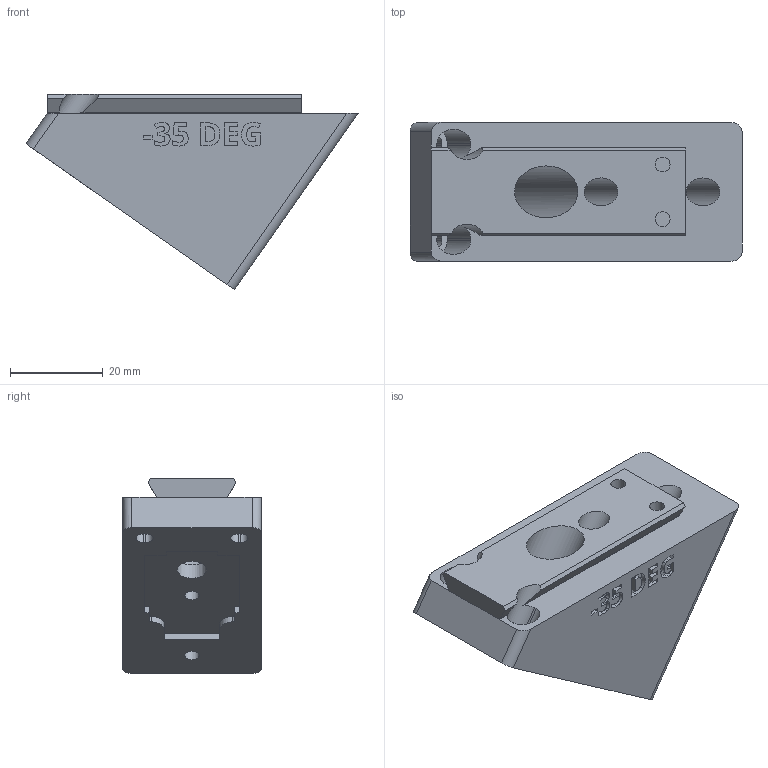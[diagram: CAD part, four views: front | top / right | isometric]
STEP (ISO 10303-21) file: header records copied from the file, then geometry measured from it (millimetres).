
FILE_DESCRIPTION(/* description */ ('STEP AP242 Edition 2','CAx-IF Rec.Pracs.---Representation and Presentation of Product Manufacturing Information (PMI)---4.0---2014-10-13','CAx-IF Rec.Pracs.---3D Tessellated Geometry---0.4---2014-09-14','2;1','CAx-IF Rec.Pracs.---User Defined Attributes---1.5---2016-08-15'),/* implementation_level */ '2;1');
FILE_NAME(/* name */ 'Camera Wedges - CAMERA MOUNTING WEDGE, NEG, -35 DEG',/* time_stamp */ '2026-08-11T00:08:05Z',/* author */ (''),/* organization */ (''),/* preprocessor_version */ 'ST-DEVELOPER v20',/* originating_system */ 'ONSHAPE BY PTC INC, 1.219',/* authorisation */ ' ');
FILE_SCHEMA (('AP242_MANAGED_MODEL_BASED_3D_ENGINEERING_MIM_LF { 1 0 10303 442 3 1 4 }'));
Length unit declared in the file: metre
Products named in the file (1): CAMERA MOUNTING WEDGE, NEG, -35 DEG
Bounding box: 71.72 x 30 x 42.19 mm (x, y, z)
Volume: 43078.8 mm3; surface area: 11760.6 mm2
Topology: 1 solids, 1 shells, 279 faces, 769 edges, 512 vertices
Faces by surface type: plane 149, bspline 78, cylinder 52
Full cylindrical faces by diameter (mm): 3.2 x4, 6 x2, 6.4 x1, 11.2 x1
Entity records: 9117 total; most frequent: CARTESIAN_POINT 2411, ORIENTED_EDGE 1522, DIRECTION 1125, EDGE_CURVE 761, VERTEX_POINT 512, LINE 489, VECTOR 489, AXIS2_PLACEMENT_3D 318
